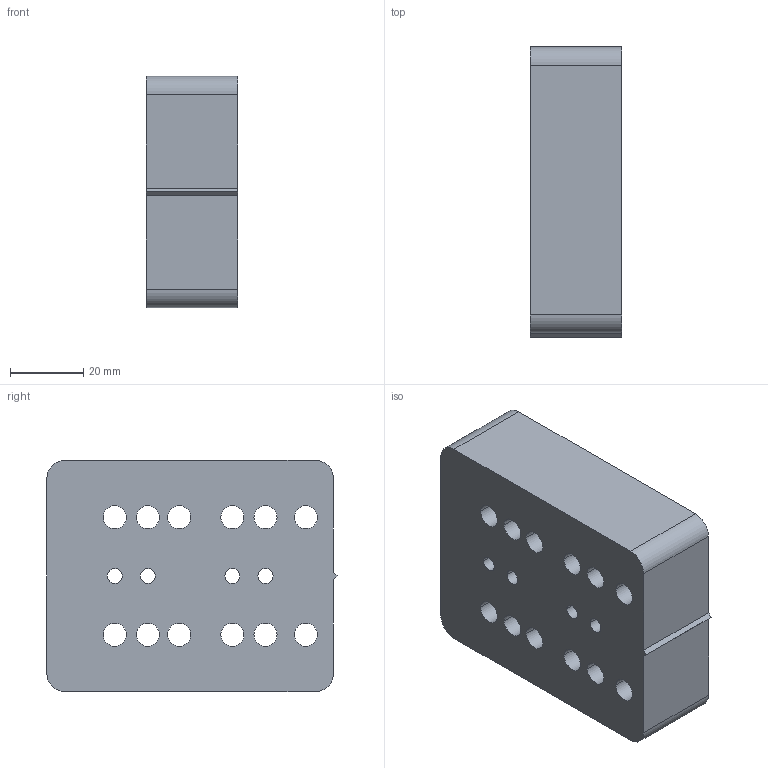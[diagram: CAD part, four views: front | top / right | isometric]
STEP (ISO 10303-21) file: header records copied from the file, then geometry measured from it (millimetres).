
FILE_DESCRIPTION (( 'STEP AP214' ), '1' );
FILE_NAME ('Distanzhalter_25mm.STEP', '2010-09-21T12:57:15', ( 'grass' ), ( '' ), 'SwSTEP 2.0', 'SolidWorks 2010', '' );
FILE_SCHEMA (( 'AUTOMOTIVE_DESIGN' ));
Length unit declared in the file: millimetre
Products named in the file (1): Distanzhalter_25mm
Bounding box: 25 x 79 x 63 mm (x, y, z)
Volume: 111666.5 mm3; surface area: 23015.1 mm2
Topology: 1 solids, 1 shells, 45 faces, 129 edges, 86 vertices
Faces by surface type: cylinder 36, plane 9
Entity records: 1613 total; most frequent: DIRECTION 293, CARTESIAN_POINT 261, ORIENTED_EDGE 258, EDGE_CURVE 129, AXIS2_PLACEMENT_3D 118, VERTEX_POINT 86, EDGE_LOOP 77, CIRCLE 72
